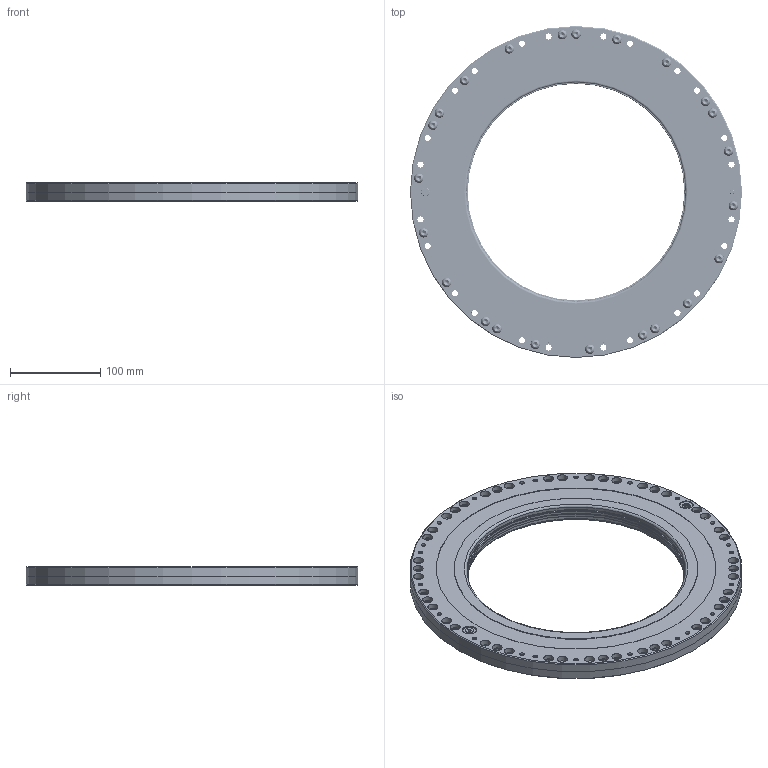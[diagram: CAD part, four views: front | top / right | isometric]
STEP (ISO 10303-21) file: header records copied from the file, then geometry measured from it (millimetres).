
FILE_DESCRIPTION(/* description */ ('Unknown'),/* implementation_level */ '2;1');
FILE_NAME(/* name */ '10025722_RC 240 N + Booster',/* time_stamp */ '2024-11-18T11:21:18+01:00',/* author */ ('Unknown'),/* organization */ ('Unknown'),/* preprocessor_version */ 'ST-DEVELOPER v19.4',/* originating_system */ 'Solid Edge',/* authorisation */ 'Unknown');
FILE_SCHEMA (('AUTOMOTIVE_DESIGN {1 0 10303 214 3 1 1}'));
Length unit declared in the file: millimetre
Products named in the file (7): 10025722; Linsenkopfschraube ISO 7380 TX M6 x 12 Ph 012.9; Verschlussschraube G1;8 x 4,5; 34-00-0002-E001; 34-06-0051-E001; 34-06-0064-E001; Gewindestift DIN 913 - M6x4 VA
Assembly tree (54 placements, depth 2):
  10025722
    Linsenkopfschraube ISO 7380 TX M6 x 12 Ph 012.9  x46
    Verschlussschraube G1;8 x 4,5  x3
    34-00-0002-E001  x2
    34-06-0051-E001
    34-06-0064-E001
    Gewindestift DIN 913 - M6x4 VA
Bounding box: 368 x 368 x 20.4 mm (x, y, z)
Volume: 1122673.9 mm3; surface area: 336674.6 mm2
Topology: 54 solids, 54 shells, 2427 faces, 5798 edges, 3617 vertices
Faces by surface type: cylinder 1495, cone 394, plane 301, torus 191, sphere 46
Full cylindrical faces by diameter (mm): 1.5 x5, 4.917 x47, 5.6 x46, 6 x94, 6.8 x95, 7.4 x1, 8.4 x1, 8.566 x4, 9.728 x4, 10.5 x46, 11 x96, 15 x4, 240 x2, 243.3 x2, 270 x2, 310 x2, 368 x2
Entity records: 12065 total; most frequent: CARTESIAN_POINT 2712, DIRECTION 1448, ORIENTED_EDGE 1142, FACE_BOUND 708, EDGE_LOOP 706, AXIS2_PLACEMENT_3D 673, EDGE_CURVE 571, VERTEX_POINT 469
